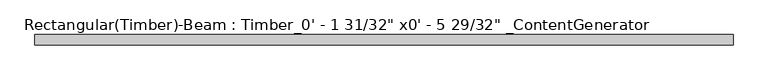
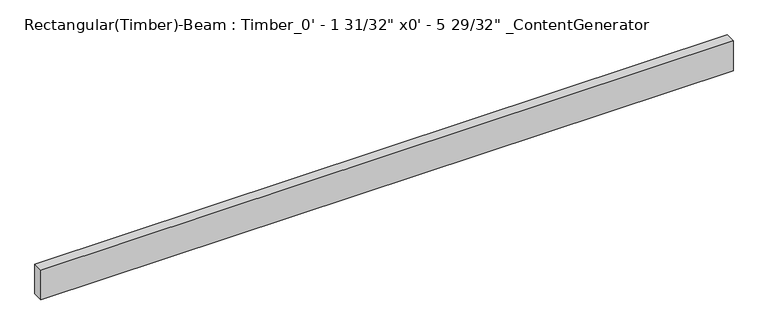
"""IFC4 building model written with IfcOpenShell, lengths in millimetres: beam geometry."""

from ifc_helpers import new_model, si_unit, frame, origin, place, context, project, spatial, polyline, outline, extrude, source, transform, mapped, element, save


def beam_c9519db3(model_context):
    return source(origin(), model_context, "Body", "SweptSolid", [
        extrude(outline(polyline([(1677.7284875, 25.4), (1677.7284875, -25.4), (-1677.7284875, -25.4), (-1677.7284875, 25.4), (1677.7284875, 25.4)])), frame((0.0, 0.0, -76.2), z_axis=(0.0, 0.0, 1.0), x_axis=(1.0, 0.0, 0.0)), (0.0, 0.0, 1.0), 152.4),
    ])


if __name__ == "__main__":
    model = new_model("IFC4")
    model_context = context("Model", 3, world=origin())
    ifc_project = project(units=[si_unit("LENGTHUNIT", "METRE", prefix="MILLI")], contexts=[model_context])
    site = spatial("IfcSite", under=ifc_project)
    building = spatial("IfcBuilding", under=site)
    placement = place(None, origin())
    beam_shape = beam_c9519db3(model_context)
    element("IfcBeam", 1, ObjectType="Rectangular(Timber)-Beam : Timber_0' - 1 31/32\" x0' - 5 29/32\" _ContentGenerator", at=placement, inside=building, context=model_context, shape_type="MappedRepresentation", body=[
        mapped(beam_shape, transform((0.0, 0.0, 0.0), x_axis=(1.0, 0.0, 0.0), y_axis=(0.0, 1.0, 0.0), z_axis=(0.0, 0.0, 1.0))),
    ])
    save(model, "model.ifc")
